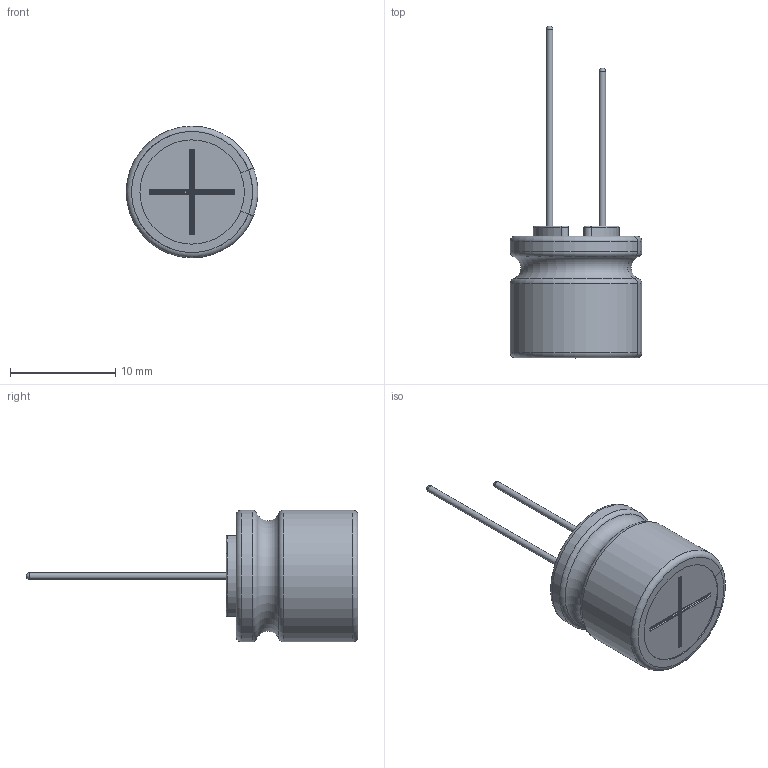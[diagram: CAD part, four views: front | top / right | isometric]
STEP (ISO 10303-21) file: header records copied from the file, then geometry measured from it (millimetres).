
FILE_DESCRIPTION(/* description */ (''),/* implementation_level */ '2;1');
FILE_NAME(/* name */ '12.5x12.5_Lead.stp',/* time_stamp */ '2017-08-31T14:42:42+09:00',/* author */ (''),/* organization */ (''),/* preprocessor_version */ 'ST-DEVELOPER v16',/* originating_system */ 'SIEMENS PLM Software NX 11.0',/* authorisation */ '');
FILE_SCHEMA (('AUTOMOTIVE_DESIGN { 1 0 10303 214 3 1 1 1 }'));
Length unit declared in the file: millimetre
Products named in the file (1): 12.5x12.5_Lead_igsstp
Bounding box: 12.48 x 31.5 x 12.5 mm (x, y, z)
Volume: 1370.7 mm3; surface area: 1880.9 mm2
Topology: 3 solids, 3 shells, 132 faces, 326 edges, 203 vertices
Faces by surface type: cylinder 50, torus 35, plane 33, sphere 6, bspline 6, extrusion 2
Full cylindrical faces by diameter (mm): 0.6 x2, 12.3 x2
Entity records: 5211 total; most frequent: CARTESIAN_POINT 1361, DIRECTION 748, ORIENTED_EDGE 624, EDGE_CURVE 312, AXIS2_PLACEMENT_3D 311, VERTEX_POINT 200, CIRCLE 174, EDGE_LOOP 146
